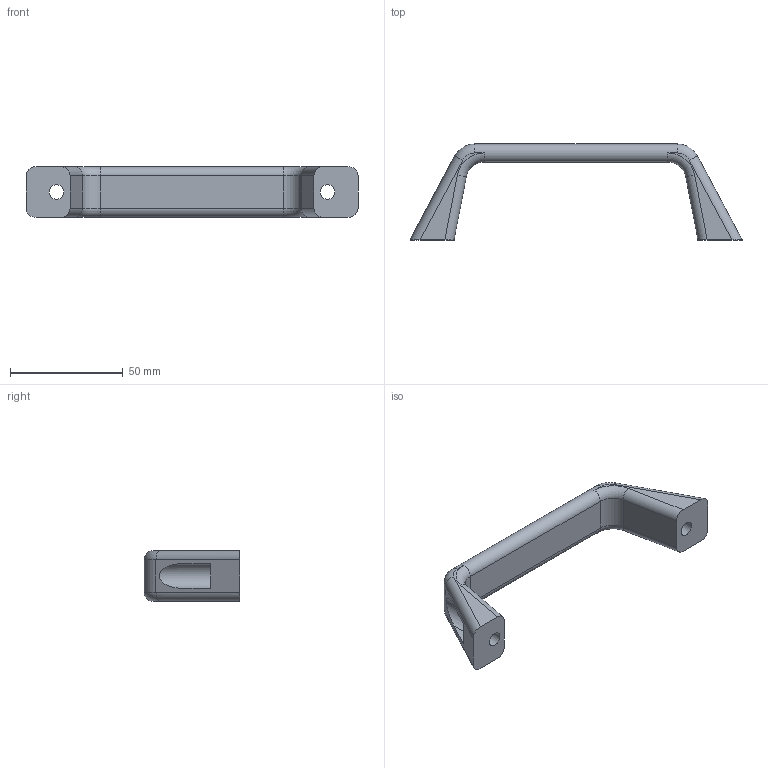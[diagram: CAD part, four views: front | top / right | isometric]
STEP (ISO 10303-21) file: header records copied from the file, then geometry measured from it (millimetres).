
FILE_DESCRIPTION( ( 'STEP AP203' ), '1' );
FILE_NAME( 'C:/Temp/Ganter_Step_05_03_2020/data/1_2/gn_728/gn_728_b/Cabinet U-handle GN 728-120-B-BL.stp', '2020-03-05T10:10:21', ( 'License CC BY-ND 4.0' ), ( 'CADENAS' ), ' ', 'PARTsolutions', ' ' );
FILE_SCHEMA( ( 'CONFIG_CONTROL_DESIGN' ) );
Length unit declared in the file: millimetre
Products named in the file (1): _Cabinet U-handle GN 728-120-B-BL
Bounding box: 147 x 42.5 x 22.5 mm (x, y, z)
Volume: 33639.1 mm3; surface area: 12443.7 mm2
Topology: 1 solids, 1 shells, 48 faces, 113 edges, 69 vertices
Faces by surface type: plane 21, cylinder 19, torus 8
Full cylindrical faces by diameter (mm): 6.4 x2, 11 x1, 12.8 x1
Entity records: 1400 total; most frequent: DIRECTION 258, CARTESIAN_POINT 225, ORIENTED_EDGE 216, EDGE_CURVE 108, AXIS2_PLACEMENT_3D 101, VERTEX_POINT 68, EDGE_LOOP 58, LINE 56
